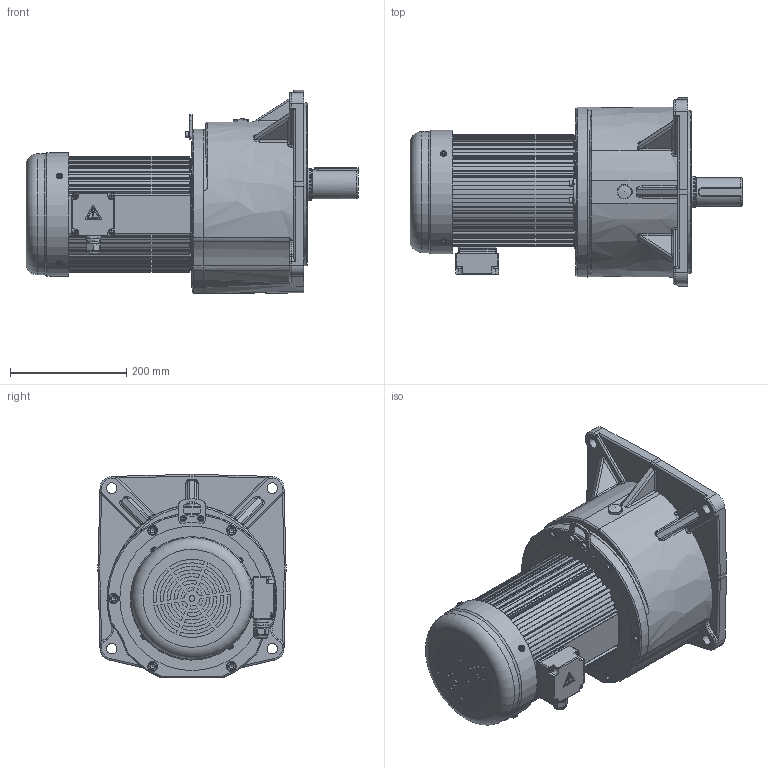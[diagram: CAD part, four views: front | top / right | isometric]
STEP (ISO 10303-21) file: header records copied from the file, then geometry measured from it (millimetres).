
FILE_DESCRIPTION(/* description */ (''),/* implementation_level */ '2;1');
FILE_NAME(/* name */ 'PST00001221_A0-小型交流减速电机-570_323_349-Φ50_93_K14-CV50-3700-200S2-G1-LD_T1.stp',/* time_stamp */ '2025-04-23T15:03:37+08:00',/* author */ (''),/* organization */ (''),/* preprocessor_version */ 'ST-DEVELOPER v18.102',/* originating_system */ 'SIEMENS PLM Software NX 2027',/* authorisation */ '');
FILE_SCHEMA (('AP203_CONFIGURATION_CONTROLLED_3D_DESIGN_OF_MECHANICAL_PARTS_AND_ASSEMBLIES_MIM_LF { 1 0 10303 403 2 1 2}'));
Products named in the file (1): A0_objects
Bounding box: 570 x 322.99 x 349.12 mm (x, y, z)
Volume: 22902978.3 mm3; surface area: 1036335.4 mm2
Topology: 9 solids, 9 shells, 2472 faces, 6250 edges, 3936 vertices
Faces by surface type: plane 1189, cylinder 711, cone 262, bspline 165, torus 72, sphere 41, revolution 32
Full cylindrical faces by diameter (mm): 3 x2, 4 x1, 4.2 x4, 4.336 x4, 4.6 x4, 4.826 x6, 5 x2, 5.795 x2, 5.89 x4, 6.4 x4, 8.5 x4, 9 x4, 9.732 x6, 10 x3, 11 x4, 16 x6, 17 x6, 18 x4, 20 x1, 21 x1, 22.5 x1, 23.027 x1, 23.2 x1, 25 x2, 49.6 x1, 50 x1, 54.9 x2, 55 x1, 70 x1, 92 x1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
Entity records: 80441 total; most frequent: CARTESIAN_POINT 22751, ORIENTED_EDGE 12032, DIRECTION 11752, EDGE_CURVE 6016, AXIS2_PLACEMENT_3D 4485, VERTEX_POINT 3883, EDGE_LOOP 2825, LINE 2750
